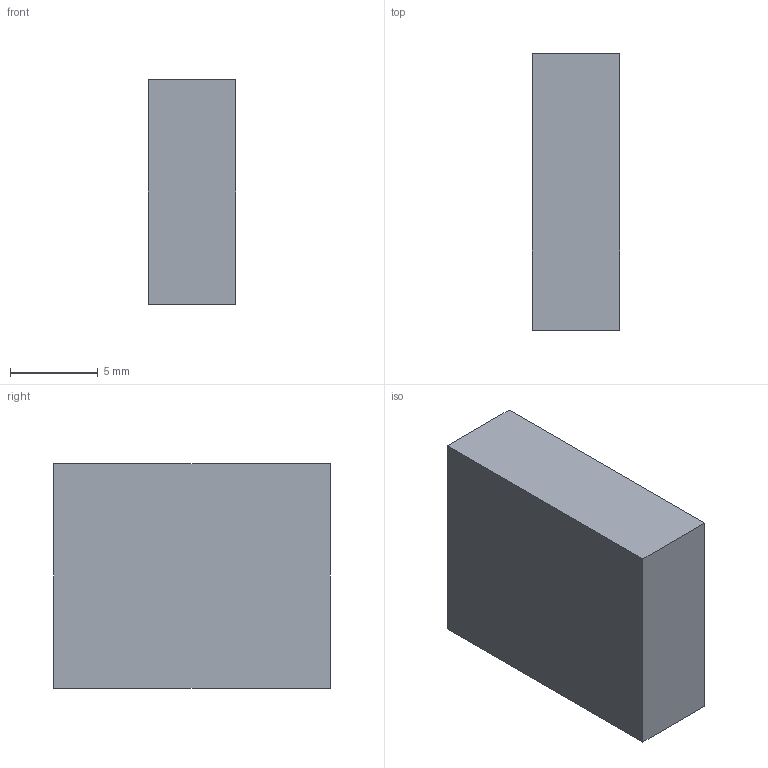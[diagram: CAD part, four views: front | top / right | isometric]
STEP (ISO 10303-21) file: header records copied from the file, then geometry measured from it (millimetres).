
FILE_DESCRIPTION(('Open CASCADE Model'),'2;1');
FILE_NAME('Open CASCADE Shape Model','2026-09-24T05:33:24',('Author'),( 'Open CASCADE'),'Open CASCADE STEP processor 7.8','Open CASCADE 7.8' ,'Unknown');
FILE_SCHEMA(('AUTOMOTIVE_DESIGN { 1 0 10303 214 1 1 1 1 }'));
Length unit declared in the file: millimetre
Products named in the file (1): Open CASCADE STEP translator 7.8 112
Bounding box: 5 x 15.8 x 12.8 mm (x, y, z)
Volume: 1011.2 mm3; surface area: 690.5 mm2
Topology: 1 solids, 1 shells, 6 faces, 12 edges, 8 vertices
Faces by surface type: plane 6
Entity records: 322 total; most frequent: CARTESIAN_POINT 51, DIRECTION 50, LINE 36, VECTOR 36, ORIENTED_EDGE 24, PCURVE 24, DEFINITIONAL_REPRESENTATION 24, EDGE_CURVE 12
